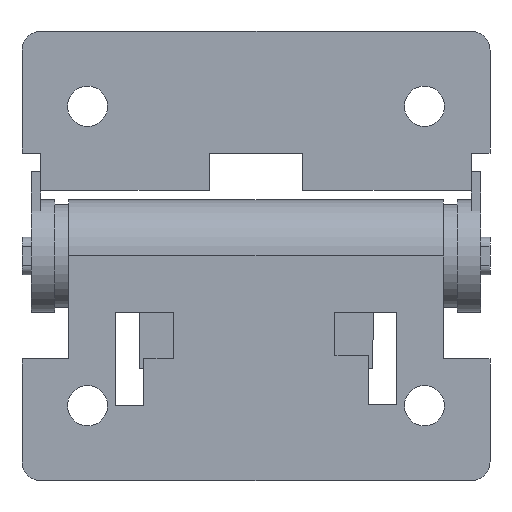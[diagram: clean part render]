
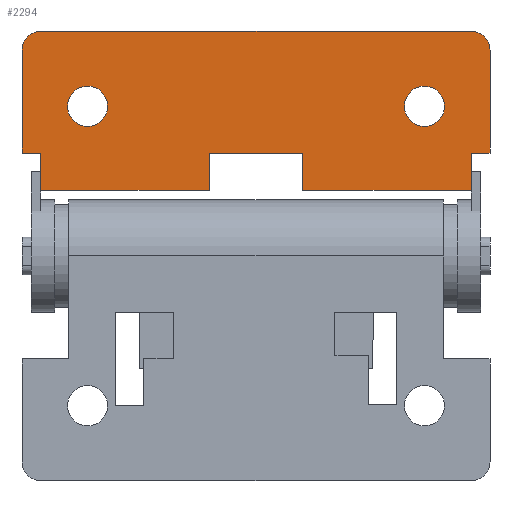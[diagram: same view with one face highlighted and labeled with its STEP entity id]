
A CAD part, front view. The second image highlights one B-rep face of the part: STEP entity #2294.
In plain terms, the highlighted planar face has unit normal (0, -1, 0).
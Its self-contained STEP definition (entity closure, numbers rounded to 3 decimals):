
#1 = VECTOR ( 'NONE', #4197, 1000. ) ;
#54 = CARTESIAN_POINT ( 'NONE',  ( 18., 0., -8. ) ) ;
#88 = ORIENTED_EDGE ( 'NONE', *, *, #3987, .F. ) ;
#91 = VECTOR ( 'NONE', #1573, 1000. ) ;
#116 = VECTOR ( 'NONE', #2472, 1000. ) ;
#122 = CIRCLE ( 'NONE', #686, 2.15 ) ;
#139 = CARTESIAN_POINT ( 'NONE',  ( -23., 0., -17. ) ) ;
#295 = CARTESIAN_POINT ( 'NONE',  ( -5., 0., -13. ) ) ;
#320 = VERTEX_POINT ( 'NONE', #3265 ) ;
#323 = CARTESIAN_POINT ( 'NONE',  ( -5., 0., -17. ) ) ;
#331 = CARTESIAN_POINT ( 'NONE',  ( -23., 0., -2. ) ) ;
#341 = EDGE_CURVE ( 'NONE', #3401, #1417, #2937, .T. ) ;
#351 = ORIENTED_EDGE ( 'NONE', *, *, #2837, .F. ) ;
#352 = VERTEX_POINT ( 'NONE', #2292 ) ;
#426 = EDGE_CURVE ( 'NONE', #352, #2728, #729, .T. ) ;
#445 = EDGE_CURVE ( 'NONE', #863, #352, #1421, .T. ) ;
#446 = AXIS2_PLACEMENT_3D ( 'NONE', #54, #3946, #988 ) ;
#519 = CARTESIAN_POINT ( 'NONE',  ( -25., 0., -13. ) ) ;
#560 = DIRECTION ( 'NONE',  ( 0., 1., 0. ) ) ;
#593 = DIRECTION ( 'NONE',  ( 0., 0., 1. ) ) ;
#602 = CARTESIAN_POINT ( 'NONE',  ( -23., 0., 0. ) ) ;
#618 = VERTEX_POINT ( 'NONE', #3483 ) ;
#669 = EDGE_CURVE ( 'NONE', #3048, #3406, #2140, .T. ) ;
#677 = ORIENTED_EDGE ( 'NONE', *, *, #4011, .F. ) ;
#686 = AXIS2_PLACEMENT_3D ( 'NONE', #1644, #1400, #3720 ) ;
#703 = ORIENTED_EDGE ( 'NONE', *, *, #991, .F. ) ;
#729 = LINE ( 'NONE', #3108, #3219 ) ;
#748 = ORIENTED_EDGE ( 'NONE', *, *, #957, .F. ) ;
#788 = ORIENTED_EDGE ( 'NONE', *, *, #341, .T. ) ;
#821 = DIRECTION ( 'NONE',  ( -1., 0., 0. ) ) ;
#854 = CARTESIAN_POINT ( 'NONE',  ( 25., 0., -2. ) ) ;
#863 = VERTEX_POINT ( 'NONE', #2386 ) ;
#867 = PLANE ( 'NONE',  #4156 ) ;
#870 = VECTOR ( 'NONE', #2956, 1000. ) ;
#879 = CARTESIAN_POINT ( 'NONE',  ( -25., 0., -2. ) ) ;
#896 = CIRCLE ( 'NONE', #3874, 2.15 ) ;
#900 = ORIENTED_EDGE ( 'NONE', *, *, #3203, .T. ) ;
#953 = CARTESIAN_POINT ( 'NONE',  ( 5., 0., -17. ) ) ;
#957 = EDGE_CURVE ( 'NONE', #4069, #2156, #1441, .T. ) ;
#961 = DIRECTION ( 'NONE',  ( 0., 0., 1. ) ) ;
#963 = ORIENTED_EDGE ( 'NONE', *, *, #1271, .F. ) ;
#987 = CARTESIAN_POINT ( 'NONE',  ( 18., 0., -8. ) ) ;
#988 = DIRECTION ( 'NONE',  ( 0., 0., 1. ) ) ;
#991 = EDGE_CURVE ( 'NONE', #2943, #2805, #2144, .T. ) ;
#1074 = CARTESIAN_POINT ( 'NONE',  ( -5., 0., -13. ) ) ;
#1099 = VECTOR ( 'NONE', #2201, 1000. ) ;
#1106 = DIRECTION ( 'NONE',  ( 0., 0., -1. ) ) ;
#1124 = CARTESIAN_POINT ( 'NONE',  ( -23., 0., 0. ) ) ;
#1151 = CARTESIAN_POINT ( 'NONE',  ( -25., 0., -2. ) ) ;
#1234 = AXIS2_PLACEMENT_3D ( 'NONE', #4051, #2122, #2413 ) ;
#1252 = CIRCLE ( 'NONE', #4079, 2.15 ) ;
#1271 = EDGE_CURVE ( 'NONE', #2170, #2943, #1671, .T. ) ;
#1278 = CARTESIAN_POINT ( 'NONE',  ( 23., 0., 0. ) ) ;
#1282 = DIRECTION ( 'NONE',  ( 0., -1., 0. ) ) ;
#1291 = EDGE_CURVE ( 'NONE', #320, #4101, #2315, .T. ) ;
#1309 = DIRECTION ( 'NONE',  ( 0., 0., 1. ) ) ;
#1314 = ORIENTED_EDGE ( 'NONE', *, *, #1291, .F. ) ;
#1376 = ORIENTED_EDGE ( 'NONE', *, *, #3555, .F. ) ;
#1397 = ORIENTED_EDGE ( 'NONE', *, *, #426, .F. ) ;
#1400 = DIRECTION ( 'NONE',  ( 0., -1., 0. ) ) ;
#1417 = VERTEX_POINT ( 'NONE', #4110 ) ;
#1421 = LINE ( 'NONE', #2765, #3353 ) ;
#1441 = CIRCLE ( 'NONE', #1234, 2. ) ;
#1451 = VECTOR ( 'NONE', #1309, 1000. ) ;
#1553 = DIRECTION ( 'NONE',  ( 0., 0., 1. ) ) ;
#1573 = DIRECTION ( 'NONE',  ( -1., 0., 0. ) ) ;
#1586 = CARTESIAN_POINT ( 'NONE',  ( -18., 0., -8. ) ) ;
#1603 = ORIENTED_EDGE ( 'NONE', *, *, #1745, .F. ) ;
#1614 = DIRECTION ( 'NONE',  ( 0., 1., 0. ) ) ;
#1644 = CARTESIAN_POINT ( 'NONE',  ( -18., 0., -8. ) ) ;
#1648 = EDGE_LOOP ( 'NONE', ( #88, #703, #963, #900, #788, #1966, #1397, #3150, #2824, #677, #748, #351, #4030, #1376 ) ) ;
#1671 = LINE ( 'NONE', #3706, #91 ) ;
#1745 = EDGE_CURVE ( 'NONE', #3774, #4100, #1252, .T. ) ;
#1817 = DIRECTION ( 'NONE',  ( 0., 0., -1. ) ) ;
#1861 = CARTESIAN_POINT ( 'NONE',  ( 25., 0., -13. ) ) ;
#1926 = AXIS2_PLACEMENT_3D ( 'NONE', #331, #1614, #2930 ) ;
#1948 = LINE ( 'NONE', #4264, #1451 ) ;
#1966 = ORIENTED_EDGE ( 'NONE', *, *, #2226, .T. ) ;
#1981 = CARTESIAN_POINT ( 'NONE',  ( 25., 0., -13. ) ) ;
#2029 = ORIENTED_EDGE ( 'NONE', *, *, #4115, .F. ) ;
#2046 = EDGE_CURVE ( 'NONE', #2305, #863, #3629, .T. ) ;
#2122 = DIRECTION ( 'NONE',  ( 0., 1., 0. ) ) ;
#2140 = CIRCLE ( 'NONE', #1926, 2. ) ;
#2144 = LINE ( 'NONE', #4255, #2480 ) ;
#2156 = VERTEX_POINT ( 'NONE', #2923 ) ;
#2170 = VERTEX_POINT ( 'NONE', #323 ) ;
#2182 = DIRECTION ( 'NONE',  ( 0., 0., -1. ) ) ;
#2201 = DIRECTION ( 'NONE',  ( 0., 0., 1. ) ) ;
#2226 = EDGE_CURVE ( 'NONE', #1417, #2728, #3064, .T. ) ;
#2240 = CARTESIAN_POINT ( 'NONE',  ( 18., 0., -5.85 ) ) ;
#2292 = CARTESIAN_POINT ( 'NONE',  ( 23., 0., -17. ) ) ;
#2294 = ADVANCED_FACE ( 'NONE', ( #2531, #3177, #3155 ), #867, .F. ) ;
#2305 = VERTEX_POINT ( 'NONE', #1861 ) ;
#2315 = CIRCLE ( 'NONE', #446, 2.15 ) ;
#2386 = CARTESIAN_POINT ( 'NONE',  ( 23., 0., -13. ) ) ;
#2413 = DIRECTION ( 'NONE',  ( 0., 0., -1. ) ) ;
#2472 = DIRECTION ( 'NONE',  ( -1., 0., 0. ) ) ;
#2480 = VECTOR ( 'NONE', #961, 1000. ) ;
#2483 = VECTOR ( 'NONE', #2182, 1000. ) ;
#2498 = LINE ( 'NONE', #519, #116 ) ;
#2511 = ORIENTED_EDGE ( 'NONE', *, *, #4171, .F. ) ;
#2531 = FACE_BOUND ( 'NONE', #3323, .T. ) ;
#2582 = DIRECTION ( 'NONE',  ( 0., 0., 1. ) ) ;
#2601 = CARTESIAN_POINT ( 'NONE',  ( -18., 0., -10.15 ) ) ;
#2644 = CARTESIAN_POINT ( 'NONE',  ( 5., 0., -17. ) ) ;
#2728 = VERTEX_POINT ( 'NONE', #953 ) ;
#2765 = CARTESIAN_POINT ( 'NONE',  ( 23., 0., -17. ) ) ;
#2805 = VERTEX_POINT ( 'NONE', #3286 ) ;
#2824 = ORIENTED_EDGE ( 'NONE', *, *, #2046, .F. ) ;
#2837 = EDGE_CURVE ( 'NONE', #3406, #4069, #3575, .T. ) ;
#2923 = CARTESIAN_POINT ( 'NONE',  ( 25., 0., -2. ) ) ;
#2930 = DIRECTION ( 'NONE',  ( 0., 0., 1. ) ) ;
#2937 = LINE ( 'NONE', #295, #870 ) ;
#2943 = VERTEX_POINT ( 'NONE', #139 ) ;
#2956 = DIRECTION ( 'NONE',  ( 1., 0., 0. ) ) ;
#3046 = VECTOR ( 'NONE', #1106, 1000. ) ;
#3048 = VERTEX_POINT ( 'NONE', #1151 ) ;
#3064 = LINE ( 'NONE', #2644, #3046 ) ;
#3108 = CARTESIAN_POINT ( 'NONE',  ( -25., 0., -17. ) ) ;
#3150 = ORIENTED_EDGE ( 'NONE', *, *, #445, .F. ) ;
#3155 = FACE_OUTER_BOUND ( 'NONE', #1648, .T. ) ;
#3177 = FACE_BOUND ( 'NONE', #3907, .T. ) ;
#3203 = EDGE_CURVE ( 'NONE', #2170, #3401, #1948, .T. ) ;
#3219 = VECTOR ( 'NONE', #821, 1000. ) ;
#3265 = CARTESIAN_POINT ( 'NONE',  ( 18., 0., -10.15 ) ) ;
#3286 = CARTESIAN_POINT ( 'NONE',  ( -23., 0., -13. ) ) ;
#3323 = EDGE_LOOP ( 'NONE', ( #1603, #2511 ) ) ;
#3353 = VECTOR ( 'NONE', #1817, 1000. ) ;
#3401 = VERTEX_POINT ( 'NONE', #1074 ) ;
#3406 = VERTEX_POINT ( 'NONE', #1124 ) ;
#3483 = CARTESIAN_POINT ( 'NONE',  ( -25., 0., -13. ) ) ;
#3555 = EDGE_CURVE ( 'NONE', #618, #3048, #3831, .T. ) ;
#3575 = LINE ( 'NONE', #602, #3819 ) ;
#3629 = LINE ( 'NONE', #1981, #1 ) ;
#3652 = CARTESIAN_POINT ( 'NONE',  ( -18., 0., -5.85 ) ) ;
#3706 = CARTESIAN_POINT ( 'NONE',  ( -25., 0., -17. ) ) ;
#3720 = DIRECTION ( 'NONE',  ( 0., 0., 1. ) ) ;
#3774 = VERTEX_POINT ( 'NONE', #3652 ) ;
#3819 = VECTOR ( 'NONE', #3938, 1000. ) ;
#3827 = LINE ( 'NONE', #854, #2483 ) ;
#3831 = LINE ( 'NONE', #879, #1099 ) ;
#3874 = AXIS2_PLACEMENT_3D ( 'NONE', #987, #3923, #2582 ) ;
#3907 = EDGE_LOOP ( 'NONE', ( #2029, #1314 ) ) ;
#3923 = DIRECTION ( 'NONE',  ( 0., -1., 0. ) ) ;
#3938 = DIRECTION ( 'NONE',  ( 1., 0., 0. ) ) ;
#3946 = DIRECTION ( 'NONE',  ( 0., -1., 0. ) ) ;
#3987 = EDGE_CURVE ( 'NONE', #2805, #618, #2498, .T. ) ;
#4011 = EDGE_CURVE ( 'NONE', #2156, #2305, #3827, .T. ) ;
#4030 = ORIENTED_EDGE ( 'NONE', *, *, #669, .F. ) ;
#4051 = CARTESIAN_POINT ( 'NONE',  ( 23., 0., -2. ) ) ;
#4069 = VERTEX_POINT ( 'NONE', #1278 ) ;
#4079 = AXIS2_PLACEMENT_3D ( 'NONE', #1586, #1282, #593 ) ;
#4100 = VERTEX_POINT ( 'NONE', #2601 ) ;
#4101 = VERTEX_POINT ( 'NONE', #2240 ) ;
#4110 = CARTESIAN_POINT ( 'NONE',  ( 5., 0., -13. ) ) ;
#4115 = EDGE_CURVE ( 'NONE', #4101, #320, #896, .T. ) ;
#4156 = AXIS2_PLACEMENT_3D ( 'NONE', #4210, #560, #1553 ) ;
#4171 = EDGE_CURVE ( 'NONE', #4100, #3774, #122, .T. ) ;
#4197 = DIRECTION ( 'NONE',  ( -1., 0., 0. ) ) ;
#4210 = CARTESIAN_POINT ( 'NONE',  ( -23., 0., -2. ) ) ;
#4255 = CARTESIAN_POINT ( 'NONE',  ( -23., 0., -17. ) ) ;
#4264 = CARTESIAN_POINT ( 'NONE',  ( -5., 0., -17. ) ) ;
